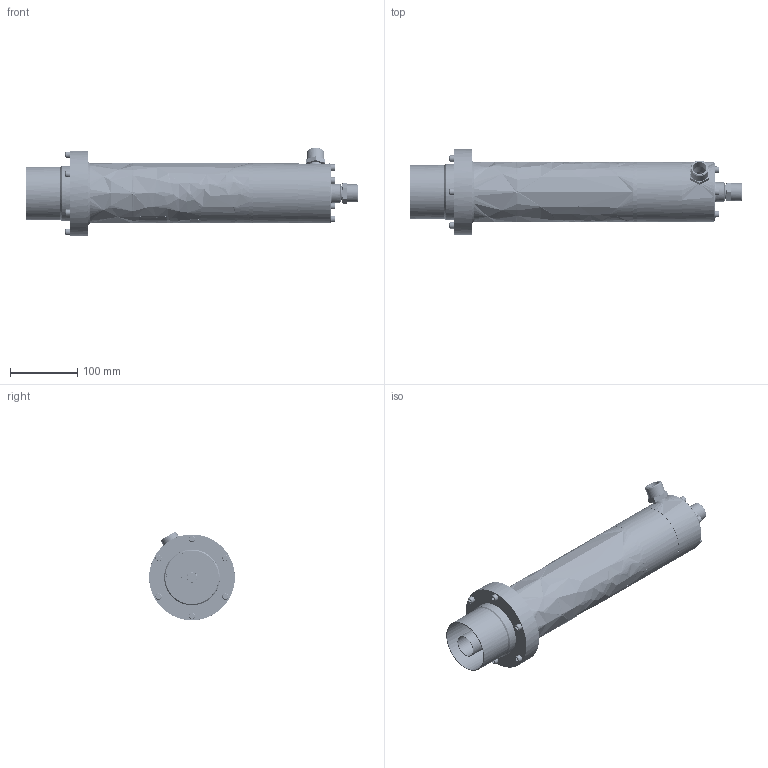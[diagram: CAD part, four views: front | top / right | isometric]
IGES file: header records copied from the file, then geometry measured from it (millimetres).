
Start section: C
Global section: file name: 8746_RevP.igs; native system: By Siemens PLM Incorporated; preprocessor: XPlus GENERIC/IGES 17.0.49; author: Author; organization: Title; date: 20150611.081541; units: millimetre
Bounding box: 491.99 x 126.96 x 131.05 mm (x, y, z)
Surface area: 621591.7 mm2 (no closed solid volume)
Topology: 0 solids, 0 shells, 1410 faces, 10637 edges, 10622 vertices
Faces by surface type: bspline 1410
